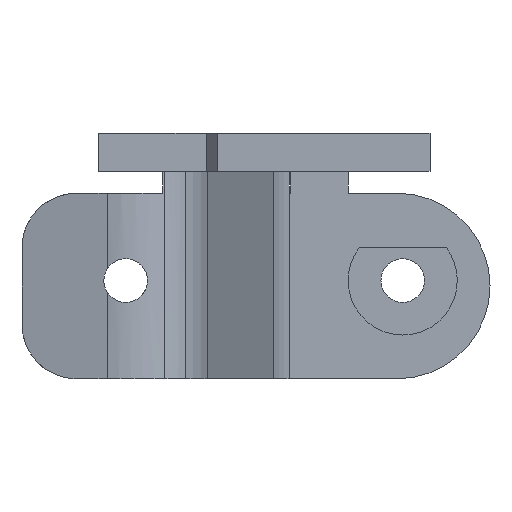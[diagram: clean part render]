
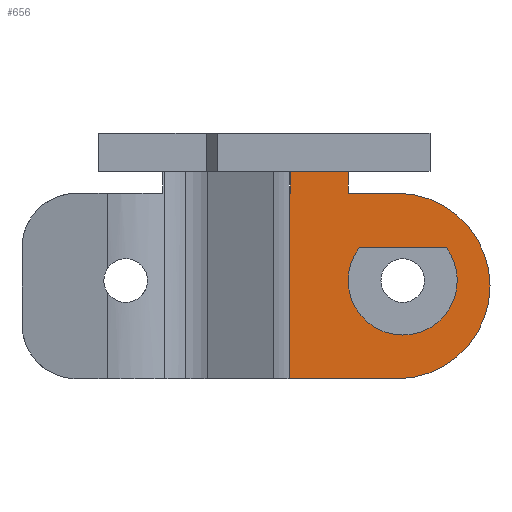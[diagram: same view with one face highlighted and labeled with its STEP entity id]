
A CAD part, left-side view. The second image highlights one B-rep face of the part: STEP entity #656.
In plain terms, the highlighted planar face has unit normal (-1, 0, 0).
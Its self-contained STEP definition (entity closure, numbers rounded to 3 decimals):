
#294 = VERTEX_POINT ( 'NONE', #3833 ) ;
#370 = VERTEX_POINT ( 'NONE', #2845 ) ;
#379 = VERTEX_POINT ( 'NONE', #2916 ) ;
#398 = EDGE_CURVE ( 'NONE', #370, #379, #2957, .T. ) ;
#437 = EDGE_CURVE ( 'NONE', #294, #370, #1824, .T. ) ;
#573 = ORIENTED_EDGE ( 'NONE', *, *, #658, .F. ) ;
#645 = VERTEX_POINT ( 'NONE', #2313 ) ;
#647 = ORIENTED_EDGE ( 'NONE', *, *, #670, .F. ) ;
#650 = VERTEX_POINT ( 'NONE', #2311 ) ;
#655 = VERTEX_POINT ( 'NONE', #2327 ) ;
#656 = ADVANCED_FACE ( 'NONE', ( #2326, #2342 ), #2332, .F. ) ;
#657 = VERTEX_POINT ( 'NONE', #2334 ) ;
#658 = EDGE_CURVE ( 'NONE', #655, #657, #2335, .T. ) ;
#659 = EDGE_LOOP ( 'NONE', ( #647, #677, #683, #682, #666, #573, #681, #680, #686 ) ) ;
#661 = EDGE_CURVE ( 'NONE', #650, #695, #2389, .T. ) ;
#662 = VERTEX_POINT ( 'NONE', #2384 ) ;
#663 = EDGE_CURVE ( 'NONE', #662, #294, #2357, .T. ) ;
#664 = ORIENTED_EDGE ( 'NONE', *, *, #663, .F. ) ;
#666 = ORIENTED_EDGE ( 'NONE', *, *, #667, .F. ) ;
#667 = EDGE_CURVE ( 'NONE', #657, #671, #2375, .T. ) ;
#668 = VERTEX_POINT ( 'NONE', #2365 ) ;
#669 = VERTEX_POINT ( 'NONE', #2391 ) ;
#670 = EDGE_CURVE ( 'NONE', #645, #650, #2383, .T. ) ;
#671 = VERTEX_POINT ( 'NONE', #2377 ) ;
#672 = EDGE_LOOP ( 'NONE', ( #664, #674, #693, #692 ) ) ;
#674 = ORIENTED_EDGE ( 'NONE', *, *, #685, .F. ) ;
#675 = VERTEX_POINT ( 'NONE', #2378 ) ;
#676 = EDGE_CURVE ( 'NONE', #671, #669, #2367, .T. ) ;
#677 = ORIENTED_EDGE ( 'NONE', *, *, #678, .F. ) ;
#678 = EDGE_CURVE ( 'NONE', #668, #645, #2393, .T. ) ;
#679 = EDGE_CURVE ( 'NONE', #675, #655, #2394, .T. ) ;
#680 = ORIENTED_EDGE ( 'NONE', *, *, #701, .F. ) ;
#681 = ORIENTED_EDGE ( 'NONE', *, *, #679, .F. ) ;
#682 = ORIENTED_EDGE ( 'NONE', *, *, #676, .F. ) ;
#683 = ORIENTED_EDGE ( 'NONE', *, *, #684, .F. ) ;
#684 = EDGE_CURVE ( 'NONE', #669, #668, #2376, .T. ) ;
#685 = EDGE_CURVE ( 'NONE', #379, #662, #2339, .T. ) ;
#686 = ORIENTED_EDGE ( 'NONE', *, *, #661, .F. ) ;
#692 = ORIENTED_EDGE ( 'NONE', *, *, #437, .F. ) ;
#693 = ORIENTED_EDGE ( 'NONE', *, *, #398, .F. ) ;
#695 = VERTEX_POINT ( 'NONE', #2421 ) ;
#701 = EDGE_CURVE ( 'NONE', #695, #675, #2308, .T. ) ;
#1805 = DIRECTION ( 'NONE',  ( 0., 1., 0. ) ) ;
#1806 = DIRECTION ( 'NONE',  ( -1., 0., 0. ) ) ;
#1807 = CARTESIAN_POINT ( 'NONE',  ( 238.9, 186.7, -9.358 ) ) ;
#1822 = AXIS2_PLACEMENT_3D ( 'NONE', #1807, #1806, #1805 ) ;
#1824 = CIRCLE ( 'NONE', #1822, 5. ) ;
#2064 = DIRECTION ( 'NONE',  ( 1., 0., 0. ) ) ;
#2125 = DIRECTION ( 'NONE',  ( 0., 1., 0. ) ) ;
#2126 = DIRECTION ( 'NONE',  ( 0., -1., 0. ) ) ;
#2130 = VECTOR ( 'NONE', #2126, 1000. ) ;
#2131 = DIRECTION ( 'NONE',  ( 0., -1., 0. ) ) ;
#2136 = VECTOR ( 'NONE', #2125, 1000. ) ;
#2307 = CARTESIAN_POINT ( 'NONE',  ( 238.9, 178.7, -1.358 ) ) ;
#2308 = LINE ( 'NONE', #2307, #2130 ) ;
#2311 = CARTESIAN_POINT ( 'NONE',  ( 238.9, 191.7, 0.642 ) ) ;
#2313 = CARTESIAN_POINT ( 'NONE',  ( 238.9, 197.015, 0.642 ) ) ;
#2326 = FACE_OUTER_BOUND ( 'NONE', #659, .T. ) ;
#2327 = CARTESIAN_POINT ( 'NONE',  ( 238.9, 178.7, -9.858 ) ) ;
#2332 = PLANE ( 'NONE',  #2336 ) ;
#2334 = CARTESIAN_POINT ( 'NONE',  ( 238.9, 187.2, -18.358 ) ) ;
#2335 = CIRCLE ( 'NONE', #2347, 8.5 ) ;
#2336 = AXIS2_PLACEMENT_3D ( 'NONE', #2338, #2337, #2350 ) ;
#2337 = DIRECTION ( 'NONE',  ( 1., 0., 0. ) ) ;
#2338 = CARTESIAN_POINT ( 'NONE',  ( 238.9, 178.7, -18.358 ) ) ;
#2339 = LINE ( 'NONE', #2348, #2136 ) ;
#2342 = FACE_BOUND ( 'NONE', #672, .T. ) ;
#2346 = CARTESIAN_POINT ( 'NONE',  ( 238.9, 187.2, -9.858 ) ) ;
#2347 = AXIS2_PLACEMENT_3D ( 'NONE', #2346, #2064, #2131 ) ;
#2348 = CARTESIAN_POINT ( 'NONE',  ( 238.9, 190.7, -6.358 ) ) ;
#2350 = DIRECTION ( 'NONE',  ( 0., 1., 0. ) ) ;
#2357 = CIRCLE ( 'NONE', #2388, 5. ) ;
#2358 = DIRECTION ( 'NONE',  ( 0., 0., -1. ) ) ;
#2359 = VECTOR ( 'NONE', #2358, 1000. ) ;
#2360 = CARTESIAN_POINT ( 'NONE',  ( 238.9, 191.7, 0.642 ) ) ;
#2361 = DIRECTION ( 'NONE',  ( 0., 1., 0. ) ) ;
#2362 = VECTOR ( 'NONE', #2361, 1000. ) ;
#2363 = CARTESIAN_POINT ( 'NONE',  ( 238.9, 178.7, -18.358 ) ) ;
#2365 = CARTESIAN_POINT ( 'NONE',  ( 238.9, 197.015, -1.358 ) ) ;
#2366 = CARTESIAN_POINT ( 'NONE',  ( 238.9, 197.116, -18.358 ) ) ;
#2367 = LINE ( 'NONE', #2366, #2400 ) ;
#2370 = DIRECTION ( 'NONE',  ( 0., 1., 0. ) ) ;
#2371 = DIRECTION ( 'NONE',  ( -1., 0., 0. ) ) ;
#2375 = LINE ( 'NONE', #2363, #2362 ) ;
#2376 = LINE ( 'NONE', #2402, #2405 ) ;
#2377 = CARTESIAN_POINT ( 'NONE',  ( 238.9, 197.116, -18.358 ) ) ;
#2378 = CARTESIAN_POINT ( 'NONE',  ( 238.9, 187.2, -1.358 ) ) ;
#2379 = AXIS2_PLACEMENT_3D ( 'NONE', #2403, #2410, #2409 ) ;
#2380 = DIRECTION ( 'NONE',  ( 0., -1., 0. ) ) ;
#2381 = VECTOR ( 'NONE', #2380, 1000. ) ;
#2382 = CARTESIAN_POINT ( 'NONE',  ( 238.9, 191.7, 0.642 ) ) ;
#2383 = LINE ( 'NONE', #2382, #2381 ) ;
#2384 = CARTESIAN_POINT ( 'NONE',  ( 238.9, 190.7, -6.358 ) ) ;
#2388 = AXIS2_PLACEMENT_3D ( 'NONE', #2390, #2371, #2370 ) ;
#2389 = LINE ( 'NONE', #2360, #2359 ) ;
#2390 = CARTESIAN_POINT ( 'NONE',  ( 238.9, 186.7, -9.358 ) ) ;
#2391 = CARTESIAN_POINT ( 'NONE',  ( 238.9, 197.116, -1.358 ) ) ;
#2392 = CARTESIAN_POINT ( 'NONE',  ( 238.9, 197.015, -1.358 ) ) ;
#2393 = LINE ( 'NONE', #2392, #2397 ) ;
#2394 = CIRCLE ( 'NONE', #2379, 8.5 ) ;
#2396 = DIRECTION ( 'NONE',  ( 0., 0., 1. ) ) ;
#2397 = VECTOR ( 'NONE', #2396, 1000. ) ;
#2399 = DIRECTION ( 'NONE',  ( 0., 0., 1. ) ) ;
#2400 = VECTOR ( 'NONE', #2399, 1000. ) ;
#2401 = DIRECTION ( 'NONE',  ( 0., -1., 0. ) ) ;
#2402 = CARTESIAN_POINT ( 'NONE',  ( 238.9, 197.116, -1.358 ) ) ;
#2403 = CARTESIAN_POINT ( 'NONE',  ( 238.9, 187.2, -9.858 ) ) ;
#2405 = VECTOR ( 'NONE', #2401, 1000. ) ;
#2409 = DIRECTION ( 'NONE',  ( 0., -1., 0. ) ) ;
#2410 = DIRECTION ( 'NONE',  ( 1., 0., 0. ) ) ;
#2421 = CARTESIAN_POINT ( 'NONE',  ( 238.9, 191.7, -1.358 ) ) ;
#2845 = CARTESIAN_POINT ( 'NONE',  ( 238.9, 181.7, -9.358 ) ) ;
#2851 = DIRECTION ( 'NONE',  ( 0., 1., 0. ) ) ;
#2852 = DIRECTION ( 'NONE',  ( -1., 0., 0. ) ) ;
#2853 = CARTESIAN_POINT ( 'NONE',  ( 238.9, 186.7, -9.358 ) ) ;
#2856 = AXIS2_PLACEMENT_3D ( 'NONE', #2853, #2852, #2851 ) ;
#2916 = CARTESIAN_POINT ( 'NONE',  ( 238.9, 182.7, -6.358 ) ) ;
#2957 = CIRCLE ( 'NONE', #2856, 5. ) ;
#3833 = CARTESIAN_POINT ( 'NONE',  ( 238.9, 191.7, -9.358 ) ) ;
